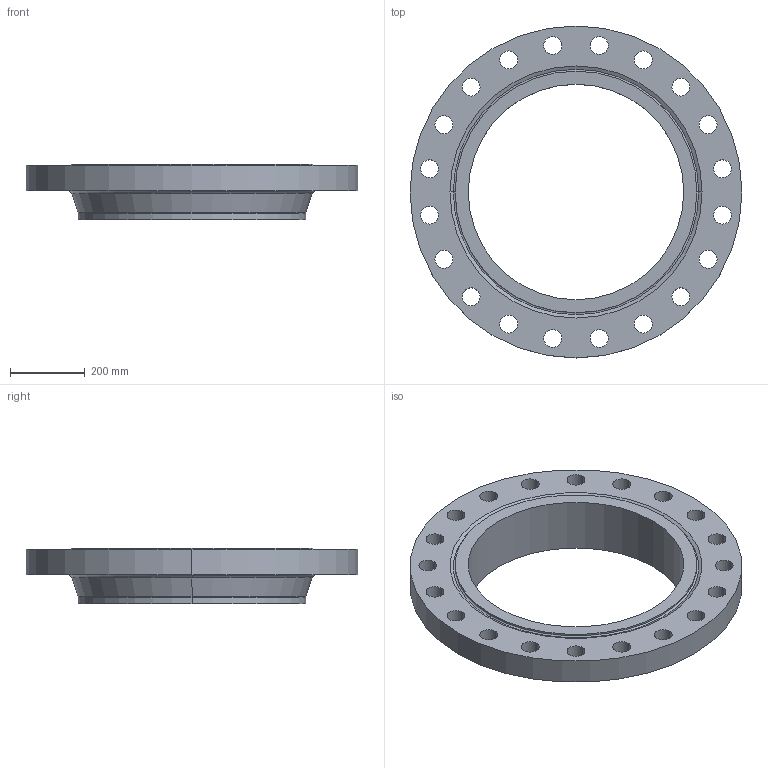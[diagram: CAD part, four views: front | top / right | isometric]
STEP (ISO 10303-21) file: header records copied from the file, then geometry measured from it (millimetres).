
FILE_DESCRIPTION (( 'STEP AP214' ), '1' );
FILE_NAME ('PN40 DN600 Type 11 - Type H Face.STEP', '2018-12-29T04:41:55', ( '' ), ( '' ), 'SwSTEP 2.0', 'SolidWorks 2019', '' );
FILE_SCHEMA (( 'AUTOMOTIVE_DESIGN' ));
Length unit declared in the file: millimetre
Products named in the file (1): PN40 DN600 Type 11 - Type H Face
Bounding box: 890 x 890 x 150 mm (x, y, z)
Volume: 25921631.1 mm3; surface area: 1452331.4 mm2
Topology: 1 solids, 1 shells, 62 faces, 164 edges, 106 vertices
Faces by surface type: cylinder 48, torus 6, cone 4, plane 4
Entity records: 2098 total; most frequent: DIRECTION 402, CARTESIAN_POINT 333, ORIENTED_EDGE 328, AXIS2_PLACEMENT_3D 175, EDGE_CURVE 164, CIRCLE 112, VERTEX_POINT 106, EDGE_LOOP 106
